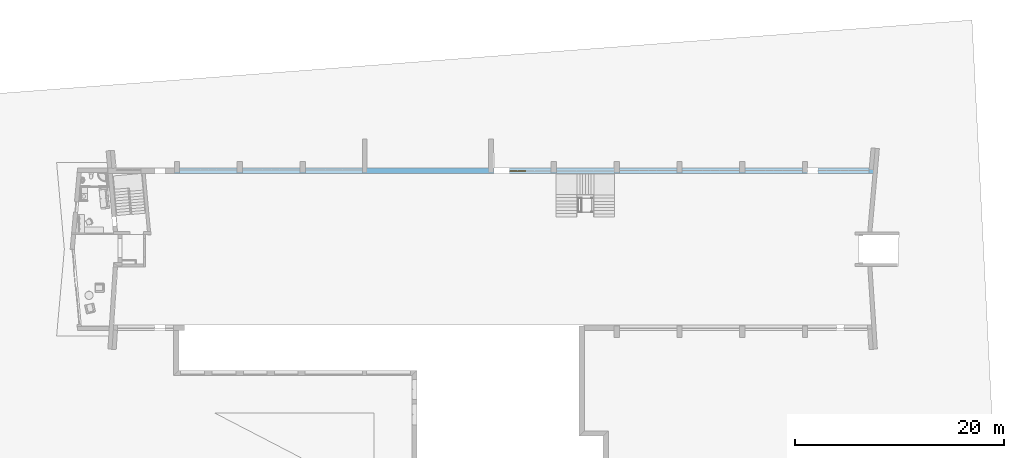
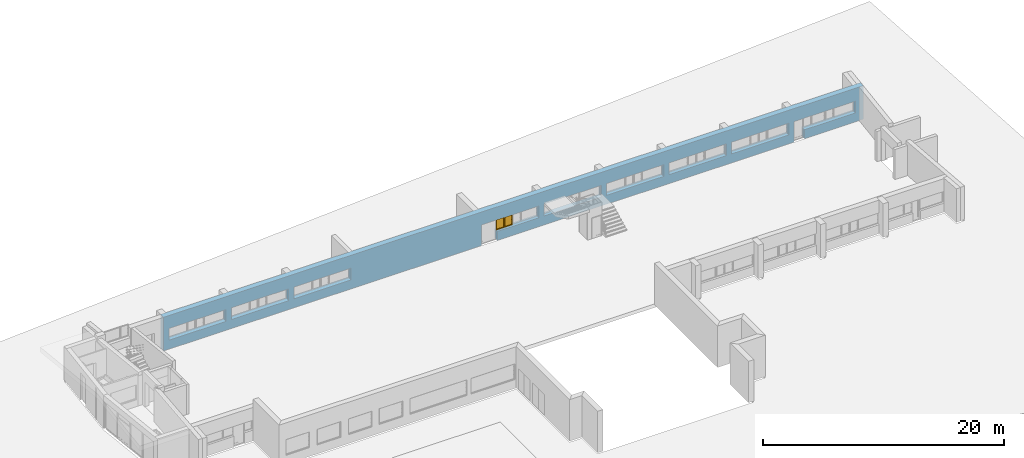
# One storey, part 24 of 36: 1 window, 20 openings, plus 1 element that does not belong to this part.
"""IFC2X3 building model written with IfcOpenShell, lengths in millimetres."""

from ifc_helpers import new_model, entity, si_unit, converted_unit, money_unit, direction, frame, origin_with_axes, place, context, subcontext, project, spatial, polyline, outline, extrude, open_shell, faceted_brep, surface_model, material, material_list, layer, layer_set, layer_usage, type_object, element, fill, save


model = new_model("IFC2X3")

# Units and contexts
model_context = context("Model", 3, precision=1e-05, world=origin_with_axes(), true_north=direction((0.0, 1.0)))
body_context = subcontext(model_context, "Body", "Model", "MODEL_VIEW")
ifc_project = project(units=[si_unit("LENGTHUNIT", "METRE", prefix="MILLI"), si_unit("AREAUNIT", "SQUARE_METRE"), si_unit("VOLUMEUNIT", "CUBIC_METRE"), converted_unit("PLANEANGLEUNIT", "DEGREE", entity("IfcPlaneAngleMeasure", 0.0174532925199), si_unit("PLANEANGLEUNIT", "RADIAN"), dimensions=[0, 0, 0, 0, 0, 0, 0]), si_unit("SOLIDANGLEUNIT", "STERADIAN"), money_unit("USD"), converted_unit("TIMEUNIT", "Year", entity("IfcTimeMeasure", 31556926.0), si_unit("TIMEUNIT", "SECOND"), dimensions=[0, 0, 0, 0, 0, 0, 0]), si_unit("MASSUNIT", "GRAM"), si_unit("THERMODYNAMICTEMPERATUREUNIT", "DEGREE_CELSIUS"), si_unit("LUMINOUSINTENSITYUNIT", "LUMEN")], contexts=[model_context])

# Site, building, storey
site_placement = place(None, origin_with_axes())
site = spatial("IfcSite", under=ifc_project, at=site_placement, Name="Site", CompositionType="ELEMENT")
building_placement = place(site_placement, origin_with_axes())
building = spatial("IfcBuilding", under=site, at=building_placement, Name="Building", CompositionType="ELEMENT")
storey_placement = place(building_placement, frame((0.0, 0.0, -3400.0), z_axis=(0.0, 0.0, 1.0), x_axis=(1.0, 0.0, 0.0)))
storey = spatial("IfcBuildingStorey", under=building, at=storey_placement, Name="1KORRUS", CompositionType="ELEMENT", Elevation=-3400.0)

# Wall, openings, window
ifc_material_1 = material(Name="Olemasolevad seinad tellis, uus viimistlus")
ifc_layer = layer(ifc_material_1, 500.0, ventilated="UNKNOWN")
ifc_layer_set = layer_set([ifc_layer], Name="Olemasolevad seinad tellis, uus viimistlus 500")
ifc_layer_usage = layer_usage(ifc_layer_set, "AXIS2", "POSITIVE", -100.0)
wall_type = type_object("IfcWallType", Name="Olemasolevad seinad tellis, uus viimistlus 500", PredefinedType="NOTDEFINED")
wall_placement = place(storey_placement, frame((-48393.8274049, -5039.6041088, 0.0), z_axis=(0.0, 0.0, 1.0), x_axis=(1.0, 0.0, 0.0)))
wall = element("IfcWallStandardCase", 1, at=wall_placement, inside=storey, type_object=wall_type, material=ifc_layer_usage, Name="VS1", ObjectType="VS1", context=body_context, shape_type="SweptSolid", body=[
    extrude(outline(polyline([(0.0, -100.0), (67149.8194303, -100.0), (67149.8194303, 400.0), (0.0, 400.0), (0.0, -100.0)])), origin_with_axes(), (0.0, 0.0, 1.0), 3400.0),
])
opening_1_placement = place(wall_placement, frame((1878.53070154, 0.0, 900.0), z_axis=(0.0, 0.0, 1.0), x_axis=(1.0, 0.0, 0.0)))
element("IfcOpeningElement", 2, at=opening_1_placement, cuts=wall, Name="Olemasolevad aknad jäävad", context=body_context, shape_type="SweptSolid", body=[
    extrude(outline(polyline([(-1375.0, 1200.0), (-1375.0, 0.0), (1375.0, 0.0), (1375.0, 1200.0), (-1375.0, 1200.0)])), frame((0.0, 250.0, 0.0), z_axis=(0.0, -1.0, 0.0), x_axis=(1.0, 0.0, 0.0)), (0.0, 0.0, 1.0), 850.0),
    extrude(outline(polyline([(-1375.0, 0.0), (-1375.0, -1200.0), (1375.0, -1200.0), (1375.0, 0.0), (-1375.0, 0.0)])), frame((0.0, 250.0, 0.0), z_axis=(0.0, 1.0, 0.0), x_axis=(1.0, 0.0, 0.0)), (0.0, 0.0, 1.0), 650.0),
])
opening_2_placement = place(wall_placement, frame((7878.53070154, 0.0, 900.0), z_axis=(0.0, 0.0, 1.0), x_axis=(1.0, 0.0, 0.0)))
element("IfcOpeningElement", 3, at=opening_2_placement, cuts=wall, Name="Olemasolevad aknad jäävad", context=body_context, shape_type="SweptSolid", body=[
    extrude(outline(polyline([(-1375.0, 1200.0), (-1375.0, 0.0), (1375.0, 0.0), (1375.0, 1200.0), (-1375.0, 1200.0)])), frame((0.0, 250.0, 0.0), z_axis=(0.0, -1.0, 0.0), x_axis=(1.0, 0.0, 0.0)), (0.0, 0.0, 1.0), 850.0),
    extrude(outline(polyline([(-1375.0, 0.0), (-1375.0, -1200.0), (1375.0, -1200.0), (1375.0, 0.0), (-1375.0, 0.0)])), frame((0.0, 250.0, 0.0), z_axis=(0.0, 1.0, 0.0), x_axis=(1.0, 0.0, 0.0)), (0.0, 0.0, 1.0), 650.0),
])
opening_3_placement = place(wall_placement, frame((13878.5307015, 0.0, 900.0), z_axis=(0.0, 0.0, 1.0), x_axis=(1.0, 0.0, 0.0)))
element("IfcOpeningElement", 4, at=opening_3_placement, cuts=wall, Name="Olemasolevad aknad jäävad", context=body_context, shape_type="SweptSolid", body=[
    extrude(outline(polyline([(-1375.0, 1200.0), (-1375.0, 0.0), (1375.0, 0.0), (1375.0, 1200.0), (-1375.0, 1200.0)])), frame((0.0, 250.0, 0.0), z_axis=(0.0, -1.0, 0.0), x_axis=(1.0, 0.0, 0.0)), (0.0, 0.0, 1.0), 850.0),
    extrude(outline(polyline([(-1375.0, 0.0), (-1375.0, -1200.0), (1375.0, -1200.0), (1375.0, 0.0), (-1375.0, 0.0)])), frame((0.0, 250.0, 0.0), z_axis=(0.0, 1.0, 0.0), x_axis=(1.0, 0.0, 0.0)), (0.0, 0.0, 1.0), 650.0),
])
opening_4_placement = place(wall_placement, frame((4628.53070154, 0.0, 900.0), z_axis=(0.0, 0.0, 1.0), x_axis=(1.0, 0.0, 0.0)))
element("IfcOpeningElement", 5, at=opening_4_placement, cuts=wall, Name="Olemasolevad aknad jäävad", context=body_context, shape_type="SweptSolid", body=[
    extrude(outline(polyline([(1375.0, 1200.0), (-1375.0, 1200.0), (-1375.0, 0.0), (1375.0, 0.0), (1375.0, 1200.0)])), frame((0.0, 250.0, 0.0), z_axis=(0.0, -1.0, 0.0), x_axis=(1.0, 0.0, 0.0)), (0.0, 0.0, 1.0), 850.0),
    extrude(outline(polyline([(1375.0, 0.0), (-1375.0, 0.0), (-1375.0, -1200.0), (1375.0, -1200.0), (1375.0, 0.0)])), frame((0.0, 250.0, 0.0), z_axis=(0.0, 1.0, 0.0), x_axis=(1.0, 0.0, 0.0)), (0.0, 0.0, 1.0), 650.0),
])
opening_5_placement = place(wall_placement, frame((10628.5307015, 0.0, 900.0), z_axis=(0.0, 0.0, 1.0), x_axis=(1.0, 0.0, 0.0)))
element("IfcOpeningElement", 6, at=opening_5_placement, cuts=wall, Name="Olemasolevad aknad jäävad", context=body_context, shape_type="SweptSolid", body=[
    extrude(outline(polyline([(1375.0, 1200.0), (-1375.0, 1200.0), (-1375.0, 0.0), (1375.0, 0.0), (1375.0, 1200.0)])), frame((0.0, 250.0, 0.0), z_axis=(0.0, -1.0, 0.0), x_axis=(1.0, 0.0, 0.0)), (0.0, 0.0, 1.0), 850.0),
    extrude(outline(polyline([(1375.0, 0.0), (-1375.0, 0.0), (-1375.0, -1200.0), (1375.0, -1200.0), (1375.0, 0.0)])), frame((0.0, 250.0, 0.0), z_axis=(0.0, 1.0, 0.0), x_axis=(1.0, 0.0, 0.0)), (0.0, 0.0, 1.0), 650.0),
])
opening_6_placement = place(wall_placement, frame((16616.9651775, 0.0, 900.0), z_axis=(0.0, 0.0, 1.0), x_axis=(1.0, 0.0, 0.0)))
element("IfcOpeningElement", 7, at=opening_6_placement, cuts=wall, Name="Olemasolevad aknad jäävad", context=body_context, shape_type="SweptSolid", body=[
    extrude(outline(polyline([(1375.0, 1200.0), (-1375.0, 1200.0), (-1375.0, 0.0), (1375.0, 0.0), (1375.0, 1200.0)])), frame((0.0, 250.0, 0.0), z_axis=(0.0, -1.0, 0.0), x_axis=(1.0, 0.0, 0.0)), (0.0, 0.0, 1.0), 850.0),
    extrude(outline(polyline([(1375.0, 0.0), (-1375.0, 0.0), (-1375.0, -1200.0), (1375.0, -1200.0), (1375.0, 0.0)])), frame((0.0, 250.0, 0.0), z_axis=(0.0, 1.0, 0.0), x_axis=(1.0, 0.0, 0.0)), (0.0, 0.0, 1.0), 650.0),
])
opening_7_placement = place(wall_placement, frame((34803.5307015, 0.0, 900.0), z_axis=(0.0, 0.0, 1.0), x_axis=(1.0, 0.0, 0.0)))
element("IfcOpeningElement", 8, at=opening_7_placement, cuts=wall, Name="Olemasolevad aknad jäävad", context=body_context, shape_type="SweptSolid", body=[
    extrude(outline(polyline([(1200.0, 0.0), (-1200.0, 0.0), (-1200.0, -1200.0), (1200.0, -1200.0), (1200.0, 0.0)])), frame((0.0, 100.0, 0.0), z_axis=(0.0, 1.0, 0.0), x_axis=(1.0, 0.0, 0.0)), (0.0, 0.0, 1.0), 800.0),
    extrude(outline(polyline([(1200.0, 1200.0), (-1200.0, 1200.0), (-1200.0, 0.0), (1200.0, 0.0), (1200.0, 1200.0)])), frame((0.0, 100.0, 0.0), z_axis=(0.0, -1.0, 0.0), x_axis=(1.0, 0.0, 0.0)), (0.0, 0.0, 1.0), 700.0),
])
opening_8_placement = place(wall_placement, frame((40625.1633636, 0.0, 900.0), z_axis=(0.0, 0.0, 1.0), x_axis=(1.0, 0.0, 0.0)))
element("IfcOpeningElement", 9, at=opening_8_placement, cuts=wall, Name="Olemasolevad aknad jäävad", context=body_context, shape_type="SweptSolid", body=[
    extrude(outline(polyline([(1400.0, 0.0), (-1400.0, 0.0), (-1400.0, -1200.0), (1400.0, -1200.0), (1400.0, 0.0)])), frame((0.0, 100.0, 0.0), z_axis=(0.0, 1.0, 0.0), x_axis=(1.0, 0.0, 0.0)), (0.0, 0.0, 1.0), 800.0),
    extrude(outline(polyline([(1400.0, 1200.0), (-1400.0, 1200.0), (-1400.0, 0.0), (1400.0, 0.0), (1400.0, 1200.0)])), frame((0.0, 100.0, 0.0), z_axis=(0.0, -1.0, 0.0), x_axis=(1.0, 0.0, 0.0)), (0.0, 0.0, 1.0), 700.0),
])
opening_9_placement = place(wall_placement, frame((37871.3218818, 0.0, 900.0), z_axis=(0.0, 0.0, 1.0), x_axis=(1.0, 0.0, 0.0)))
element("IfcOpeningElement", 10, at=opening_9_placement, cuts=wall, Name="Olemasolevad aknad jäävad", context=body_context, shape_type="SweptSolid", body=[
    extrude(outline(polyline([(-1367.791, 0.0), (-1367.791, -1200.0), (1367.791, -1200.0), (1367.791, 0.0), (-1367.791, 0.0)])), frame((0.0, 150.0, 0.0), z_axis=(0.0, 1.0, 0.0), x_axis=(1.0, 0.0, 0.0)), (0.0, 0.0, 1.0), 750.0),
    extrude(outline(polyline([(-1367.791, 1200.0), (-1367.791, 0.0), (1367.791, 0.0), (1367.791, 1200.0), (-1367.791, 1200.0)])), frame((0.0, 150.0, 0.0), z_axis=(0.0, -1.0, 0.0), x_axis=(1.0, 0.0, 0.0)), (0.0, 0.0, 1.0), 750.0),
])
opening_10_placement = place(wall_placement, frame((46628.5307015, 0.0, 900.0), z_axis=(0.0, 0.0, 1.0), x_axis=(1.0, 0.0, 0.0)))
element("IfcOpeningElement", 11, at=opening_10_placement, cuts=wall, Name="Olemasolevad aknad jäävad", context=body_context, shape_type="SweptSolid", body=[
    extrude(outline(polyline([(1375.0, 1200.0), (-1375.0, 1200.0), (-1375.0, 0.0), (1375.0, 0.0), (1375.0, 1200.0)])), frame((0.0, 150.0, 0.0), z_axis=(0.0, -1.0, 0.0), x_axis=(1.0, 0.0, 0.0)), (0.0, 0.0, 1.0), 750.0),
    extrude(outline(polyline([(1375.0, 0.0), (-1375.0, 0.0), (-1375.0, -1200.0), (1375.0, -1200.0), (1375.0, 0.0)])), frame((0.0, 150.0, 0.0), z_axis=(0.0, 1.0, 0.0), x_axis=(1.0, 0.0, 0.0)), (0.0, 0.0, 1.0), 750.0),
])
opening_11_placement = place(wall_placement, frame((43878.5307015, 0.0, 900.0), z_axis=(0.0, 0.0, 1.0), x_axis=(1.0, 0.0, 0.0)))
element("IfcOpeningElement", 12, at=opening_11_placement, cuts=wall, Name="Olemasolevad aknad jäävad", context=body_context, shape_type="SweptSolid", body=[
    extrude(outline(polyline([(-1375.0, 1200.0), (-1375.0, 0.0), (1375.0, 0.0), (1375.0, 1200.0), (-1375.0, 1200.0)])), frame((0.0, 200.0, 0.0), z_axis=(0.0, -1.0, 0.0), x_axis=(1.0, 0.0, 0.0)), (0.0, 0.0, 1.0), 800.0),
    extrude(outline(polyline([(-1375.0, 0.0), (-1375.0, -1200.0), (1375.0, -1200.0), (1375.0, 0.0), (-1375.0, 0.0)])), frame((0.0, 200.0, 0.0), z_axis=(0.0, 1.0, 0.0), x_axis=(1.0, 0.0, 0.0)), (0.0, 0.0, 1.0), 700.0),
])
opening_12_placement = place(wall_placement, frame((52635.3834465, 0.0, 900.0), z_axis=(0.0, 0.0, 1.0), x_axis=(1.0, 0.0, 0.0)))
element("IfcOpeningElement", 13, at=opening_12_placement, cuts=wall, Name="Olemasolevad aknad jäävad", context=body_context, shape_type="SweptSolid", body=[
    extrude(outline(polyline([(1376.809, 1200.0), (-1376.809, 1200.0), (-1376.809, 0.0), (1376.809, 0.0), (1376.809, 1200.0)])), frame((0.0, 150.0, 0.0), z_axis=(0.0, -1.0, 0.0), x_axis=(1.0, 0.0, 0.0)), (0.0, 0.0, 1.0), 750.0),
    extrude(outline(polyline([(1376.809, 0.0), (-1376.809, 0.0), (-1376.809, -1200.0), (1376.809, -1200.0), (1376.809, 0.0)])), frame((0.0, 150.0, 0.0), z_axis=(0.0, 1.0, 0.0), x_axis=(1.0, 0.0, 0.0)), (0.0, 0.0, 1.0), 750.0),
])
opening_13_placement = place(wall_placement, frame((49883.9987013, 0.0, 900.0), z_axis=(0.0, 0.0, 1.0), x_axis=(1.0, 0.0, 0.0)))
element("IfcOpeningElement", 14, at=opening_13_placement, cuts=wall, Name="Olemasolevad aknad jäävad", context=body_context, shape_type="SweptSolid", body=[
    extrude(outline(polyline([(-1375.0, 1200.0), (-1375.0, 0.0), (1375.0, 0.0), (1375.0, 1200.0), (-1375.0, 1200.0)])), frame((0.0, 200.0, 0.0), z_axis=(0.0, -1.0, 0.0), x_axis=(1.0, 0.0, 0.0)), (0.0, 0.0, 1.0), 800.0),
    extrude(outline(polyline([(-1375.0, 0.0), (-1375.0, -1200.0), (1375.0, -1200.0), (1375.0, 0.0), (-1375.0, 0.0)])), frame((0.0, 200.0, 0.0), z_axis=(0.0, 1.0, 0.0), x_axis=(1.0, 0.0, 0.0)), (0.0, 0.0, 1.0), 700.0),
])
opening_14_placement = place(wall_placement, frame((58631.8843372, 0.0, 900.0), z_axis=(0.0, 0.0, 1.0), x_axis=(1.0, 0.0, 0.0)))
element("IfcOpeningElement", 15, at=opening_14_placement, cuts=wall, Name="Olemasolevad aknad jäävad", context=body_context, shape_type="SweptSolid", body=[
    extrude(outline(polyline([(1371.646, 1200.0), (-1371.646, 1200.0), (-1371.646, 0.0), (1371.646, 0.0), (1371.646, 1200.0)])), frame((0.0, 150.0, 0.0), z_axis=(0.0, -1.0, 0.0), x_axis=(1.0, 0.0, 0.0)), (0.0, 0.0, 1.0), 750.0),
    extrude(outline(polyline([(1371.646, 0.0), (-1371.646, 0.0), (-1371.646, -1200.0), (1371.646, -1200.0), (1371.646, 0.0)])), frame((0.0, 150.0, 0.0), z_axis=(0.0, 1.0, 0.0), x_axis=(1.0, 0.0, 0.0)), (0.0, 0.0, 1.0), 750.0),
])
opening_15_placement = place(wall_placement, frame((55886.6217615, 0.0, 900.0), z_axis=(0.0, 0.0, 1.0), x_axis=(1.0, 0.0, 0.0)))
element("IfcOpeningElement", 16, at=opening_15_placement, cuts=wall, Name="Olemasolevad aknad jäävad", context=body_context, shape_type="SweptSolid", body=[
    extrude(outline(polyline([(-1375.0, 1200.0), (-1375.0, 0.0), (1375.0, 0.0), (1375.0, 1200.0), (-1375.0, 1200.0)])), frame((0.0, 200.0, 0.0), z_axis=(0.0, -1.0, 0.0), x_axis=(1.0, 0.0, 0.0)), (0.0, 0.0, 1.0), 800.0),
    extrude(outline(polyline([(-1375.0, 0.0), (-1375.0, -1200.0), (1375.0, -1200.0), (1375.0, 0.0), (-1375.0, 0.0)])), frame((0.0, 200.0, 0.0), z_axis=(0.0, 1.0, 0.0), x_axis=(1.0, 0.0, 0.0)), (0.0, 0.0, 1.0), 700.0),
])
opening_16_placement = place(wall_placement, frame((64995.2517085, 0.0, 900.0), z_axis=(0.0, 0.0, 1.0), x_axis=(1.0, 0.0, 0.0)))
element("IfcOpeningElement", 17, at=opening_16_placement, cuts=wall, Name="Olemasolevad aknad jäävad", context=body_context, shape_type="SweptSolid", body=[
    extrude(outline(polyline([(1375.0, 1200.0), (-1375.0, 1200.0), (-1375.0, 0.0), (1375.0, 0.0), (1375.0, 1200.0)])), frame((0.0, 150.0, 0.0), z_axis=(0.0, -1.0, 0.0), x_axis=(1.0, 0.0, 0.0)), (0.0, 0.0, 1.0), 750.0),
    extrude(outline(polyline([(1375.0, 0.0), (-1375.0, 0.0), (-1375.0, -1200.0), (1375.0, -1200.0), (1375.0, 0.0)])), frame((0.0, 150.0, 0.0), z_axis=(0.0, 1.0, 0.0), x_axis=(1.0, 0.0, 0.0)), (0.0, 0.0, 1.0), 750.0),
])
opening_17_placement = place(wall_placement, frame((32810.8244307, 0.0, 900.0), z_axis=(0.0, 0.0, 1.0), x_axis=(1.0, 0.0, 0.0)))
opening_17 = element("IfcOpeningElement", 18, at=opening_17_placement, cuts=wall, Name="Olemasolevad aknad jäävad", context=body_context, shape_type="SweptSolid", body=[
    extrude(outline(polyline([(792.706, 0.0), (-792.706, 0.0), (-792.706, -1200.0), (792.706, -1200.0), (792.706, 0.0)])), frame((0.0, 100.0, 0.0), z_axis=(0.0, 1.0, 0.0), x_axis=(1.0, 0.0, 0.0)), (0.0, 0.0, 1.0), 800.0),
    extrude(outline(polyline([(792.706, 1200.0), (-792.706, 1200.0), (-792.706, 0.0), (792.706, 0.0), (792.706, 1200.0)])), frame((0.0, 100.0, 0.0), z_axis=(0.0, -1.0, 0.0), x_axis=(1.0, 0.0, 0.0)), (0.0, 0.0, 1.0), 700.0),
])
opening_18_placement = place(wall_placement, frame((62561.891205, 0.0, 900.0), z_axis=(0.0, 0.0, 1.0), x_axis=(1.0, 0.0, 0.0)))
element("IfcOpeningElement", 19, at=opening_18_placement, cuts=wall, Name="Olemasolevad aknad jäävad", context=body_context, shape_type="SweptSolid", body=[
    extrude(outline(polyline([(1058.361, 1200.0), (-1058.361, 1200.0), (-1058.361, 0.0), (1058.361, 0.0), (1058.361, 1200.0)])), frame((0.0, 150.0, 0.0), z_axis=(0.0, -1.0, 0.0), x_axis=(1.0, 0.0, 0.0)), (0.0, 0.0, 1.0), 750.0),
    extrude(outline(polyline([(1058.361, 0.0), (-1058.361, 0.0), (-1058.361, -1200.0), (1058.361, -1200.0), (1058.361, 0.0)])), frame((0.0, 150.0, 0.0), z_axis=(0.0, 1.0, 0.0), x_axis=(1.0, 0.0, 0.0)), (0.0, 0.0, 1.0), 750.0),
])
opening_19_placement = place(wall_placement, frame((61003.5307015, 0.0, -4.66441168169), z_axis=(0.0, 0.0, 1.0), x_axis=(1.0, 0.0, 0.0)))
element("IfcOpeningElement", 20, at=opening_19_placement, cuts=wall, Name="ava", context=body_context, shape_type="SweptSolid", body=[
    extrude(outline(polyline([(-500.0, 2100.0), (-500.0, 0.0), (500.0, 0.0), (500.0, 2100.0), (-500.0, 2100.0)])), frame((0.0, 200.0, 0.0), z_axis=(0.0, 1.0, 0.0), x_axis=(-1.0, 0.0, 0.0)), (0.0, 0.0, -1.0), 800.0),
    extrude(outline(polyline([(-500.0, 0.0), (-500.0, -2100.0), (500.0, -2100.0), (500.0, 0.0), (-500.0, 0.0)])), frame((0.0, 200.0, 0.0), z_axis=(0.0, -1.0, 0.0), x_axis=(-1.0, 0.0, 0.0)), (0.0, 0.0, -1.0), 700.0),
])
opening_20_placement = place(wall_placement, frame((31268.1181599, 0.0, 0.0), z_axis=(0.0, 0.0, 1.0), x_axis=(1.0, 0.0, 0.0)))
element("IfcOpeningElement", 21, at=opening_20_placement, cuts=wall, Name="ava", context=body_context, shape_type="SweptSolid", body=[
    extrude(outline(polyline([(-750.0, 2100.0), (-750.0, 0.0), (750.0, 0.0), (750.0, 2100.0), (-750.0, 2100.0)])), frame((0.0, 200.0, 0.0), z_axis=(0.0, -1.0, 0.0), x_axis=(1.0, 0.0, 0.0)), (0.0, 0.0, 1.0), 800.0),
    extrude(outline(polyline([(-750.0, 0.0), (-750.0, -2100.0), (750.0, -2100.0), (750.0, 0.0), (-750.0, 0.0)])), frame((0.0, 200.0, 0.0), z_axis=(0.0, 1.0, 0.0), x_axis=(1.0, 0.0, 0.0)), (0.0, 0.0, 1.0), 700.0),
])
ifc_material_2 = material(Name="Background")
ifc_material_list = material_list([ifc_material_2])
window_style = type_object("IfcWindowStyle", Name="Double Window 19", ConstructionType="NOTDEFINED", OperationType="DOUBLE_PANEL_VERTICAL", ParameterTakesPrecedence=False, Sizeable=False)
window_placement = place(opening_17_placement, frame((-792.70627081, 0.0, 0.0), z_axis=(0.0, 0.0, 1.0), x_axis=(1.0, 0.0, 0.0)))
window = element("IfcWindow", 22, at=window_placement, inside=storey, type_object=window_style, material=ifc_material_list, Name="Olemasolevad aknad jäävad", ObjectType="Olemasolevad aknad jäävad", OverallHeight=1200.0, OverallWidth=1585.41, context=body_context, shape_type="SurfaceModel", body=[
    faceted_brep([(1560.413, 150.0, 1150.0), (1560.413, 125.0, 1150.0), (1535.413, 125.0, 1150.0), (1535.413, 100.0, 1150.0), (1585.413, 100.0, 1150.0), (1585.413, 150.0, 1150.0), (1560.413, 150.0, 50.0), (1560.413, 125.0, 50.0), (1535.413, 125.0, 50.0), (1535.413, 100.0, 50.0), (1585.413, 100.0, 50.0), (1585.413, 150.0, 50.0)], [[[0, 1, 2, 3, 4, 5]], [[1, 0, 6, 7]], [[8, 2, 1, 7]], [[2, 8, 9, 3]], [[4, 3, 9, 10]], [[5, 4, 10, 11]], [[6, 0, 5, 11]], [[7, 6, 11, 10, 9, 8]]]),
    faceted_brep([(50.0, 125.0, 1150.0), (25.0, 125.0, 1150.0), (25.0, 150.0, 1150.0), (0.0, 150.0, 1150.0), (0.0, 100.0, 1150.0), (50.0, 100.0, 1150.0), (50.0, 125.0, 50.0), (25.0, 125.0, 50.0), (25.0, 150.0, 50.0), (0.0, 150.0, 50.0), (0.0, 100.0, 50.0), (50.0, 100.0, 50.0)], [[[0, 1, 2, 3, 4, 5]], [[1, 0, 6, 7]], [[8, 2, 1, 7]], [[2, 8, 9, 3]], [[9, 10, 4, 3]], [[10, 11, 5, 4]], [[6, 0, 5, 11]], [[7, 6, 11, 10, 9, 8]]]),
    faceted_brep([(850.0, 125.0, 1150.0), (825.0, 125.0, 1150.0), (825.0, 150.0, 1150.0), (775.0, 150.0, 1150.0), (775.0, 125.0, 1150.0), (750.0, 125.0, 1150.0), (750.0, 100.0, 1150.0), (850.0, 100.0, 1150.0), (850.0, 125.0, 50.0), (825.0, 125.0, 50.0), (825.0, 150.0, 50.0), (775.0, 150.0, 50.0), (775.0, 125.0, 50.0), (750.0, 125.0, 50.0), (750.0, 100.0, 50.0), (850.0, 100.0, 50.0)], [[[0, 1, 2, 3, 4, 5, 6, 7]], [[1, 0, 8, 9]], [[10, 2, 1, 9]], [[2, 10, 11, 3]], [[4, 3, 11, 12]], [[13, 5, 4, 12]], [[5, 13, 14, 6]], [[14, 15, 7, 6]], [[8, 0, 7, 15]], [[9, 8, 15, 14, 13, 12, 11, 10]]]),
    faceted_brep([(850.0, 125.0, 50.0), (825.0, 125.0, 50.0), (825.0, 150.0, 50.0), (775.0, 150.0, 50.0), (775.0, 125.0, 50.0), (750.0, 125.0, 50.0), (750.0, 100.0, 50.0), (850.0, 100.0, 50.0), (1535.413, 125.0, 50.0), (1560.413, 125.0, 50.0), (1560.413, 125.0, 25.0), (825.0, 125.0, 25.0), (825.0, 150.0, 25.0), (1560.413, 150.0, 25.0), (1560.413, 150.0, 50.0), (1585.413, 150.0, 50.0), (1585.413, 150.0, 0.0), (0.0, 150.0, 0.0), (0.0, 150.0, 50.0), (25.0, 150.0, 50.0), (25.0, 150.0, 25.0), (775.0, 150.0, 25.0), (775.0, 125.0, 25.0), (25.0, 125.0, 50.0), (50.0, 125.0, 50.0), (25.0, 125.0, 25.0), (50.0, 100.0, 50.0), (1585.413, 100.0, 50.0), (1535.413, 100.0, 50.0), (0.0, 100.0, 50.0), (0.0, 100.0, 0.0), (1585.413, 100.0, 0.0)], [[[0, 1, 2, 3, 4, 5, 6, 7]], [[1, 0, 8, 9, 10, 11]], [[12, 2, 1, 11]], [[13, 14, 15, 16, 17, 18, 19, 20, 21, 3, 2, 12]], [[4, 3, 21, 22]], [[23, 24, 5, 4, 22, 25]], [[5, 24, 26, 6]], [[27, 28, 7, 6, 26, 29, 30, 31]], [[8, 0, 7, 28]], [[9, 8, 28, 27, 15, 14]], [[9, 14, 13, 10]], [[13, 12, 11, 10]], [[15, 27, 31, 16]], [[16, 31, 30, 17]], [[17, 30, 29, 18]], [[24, 23, 19, 18, 29, 26]], [[20, 19, 23, 25]], [[21, 20, 25, 22]]]),
    faceted_brep([(1560.413, 150.0, 1150.0), (1560.413, 150.0, 1175.0), (825.0, 150.0, 1175.0), (825.0, 150.0, 1150.0), (775.0, 150.0, 1150.0), (775.0, 150.0, 1175.0), (25.0, 150.0, 1175.0), (25.0, 150.0, 1150.0), (0.0, 150.0, 1150.0), (0.0, 150.0, 1200.0), (1585.413, 150.0, 1200.0), (1585.413, 150.0, 1150.0), (1560.413, 125.0, 1150.0), (1560.413, 125.0, 1175.0), (825.0, 125.0, 1175.0), (825.0, 125.0, 1150.0), (850.0, 125.0, 1150.0), (850.0, 100.0, 1150.0), (750.0, 100.0, 1150.0), (750.0, 125.0, 1150.0), (775.0, 125.0, 1150.0), (775.0, 125.0, 1175.0), (25.0, 125.0, 1175.0), (25.0, 125.0, 1150.0), (50.0, 125.0, 1150.0), (50.0, 100.0, 1150.0), (0.0, 100.0, 1150.0), (0.0, 100.0, 1200.0), (1585.413, 100.0, 1200.0), (1585.413, 100.0, 1150.0), (1535.413, 100.0, 1150.0), (1535.413, 125.0, 1150.0)], [[[0, 1, 2, 3, 4, 5, 6, 7, 8, 9, 10, 11]], [[1, 0, 12, 13]], [[2, 1, 13, 14]], [[3, 2, 14, 15]], [[15, 16, 17, 18, 19, 20, 4, 3]], [[5, 4, 20, 21]], [[6, 5, 21, 22]], [[7, 6, 22, 23]], [[23, 24, 25, 26, 8, 7]], [[8, 26, 27, 9]], [[9, 27, 28, 10]], [[10, 28, 29, 11]], [[12, 0, 11, 29, 30, 31]], [[16, 15, 14, 13, 12, 31]], [[16, 31, 30, 17]], [[18, 17, 30, 29, 28, 27, 26, 25]], [[24, 19, 18, 25]], [[24, 23, 22, 21, 20, 19]]]),
    faceted_brep([(1510.413, 125.0, 1125.0), (1560.413, 125.0, 1125.0), (1560.413, 175.0, 1125.0), (1510.413, 175.0, 1125.0), (1510.413, 125.0, 75.0), (1560.413, 125.0, 75.0), (1560.413, 175.0, 75.0), (1510.413, 175.0, 75.0)], [[[0, 1, 2, 3]], [[0, 4, 5, 1]], [[1, 5, 6, 2]], [[3, 2, 6, 7]], [[4, 0, 3, 7]], [[5, 4, 7, 6]]]),
    faceted_brep([(875.0, 125.0, 75.0), (825.0, 125.0, 75.0), (825.0, 175.0, 75.0), (875.0, 175.0, 75.0), (875.0, 125.0, 1125.0), (825.0, 125.0, 1125.0), (825.0, 175.0, 1125.0), (875.0, 175.0, 1125.0)], [[[0, 1, 2, 3]], [[0, 4, 5, 1]], [[1, 5, 6, 2]], [[3, 2, 6, 7]], [[4, 0, 3, 7]], [[5, 4, 7, 6]]]),
    faceted_brep([(825.0, 125.0, 25.0), (825.0, 125.0, 75.0), (825.0, 175.0, 75.0), (825.0, 175.0, 25.0), (1560.413, 125.0, 25.0), (1560.413, 125.0, 75.0), (1510.413, 125.0, 75.0), (875.0, 125.0, 75.0), (875.0, 175.0, 75.0), (1510.413, 175.0, 75.0), (1560.413, 175.0, 75.0), (1560.413, 175.0, 25.0)], [[[0, 1, 2, 3]], [[0, 4, 5, 6, 7, 1]], [[1, 7, 8, 2]], [[3, 2, 8, 9, 10, 11]], [[4, 0, 3, 11]], [[5, 4, 11, 10]], [[6, 5, 10, 9]], [[7, 6, 9, 8]]]),
    faceted_brep([(1560.413, 125.0, 1175.0), (1560.413, 125.0, 1125.0), (1560.413, 175.0, 1125.0), (1560.413, 175.0, 1175.0), (825.0, 125.0, 1175.0), (825.0, 125.0, 1125.0), (875.0, 125.0, 1125.0), (1510.413, 125.0, 1125.0), (1510.413, 175.0, 1125.0), (875.0, 175.0, 1125.0), (825.0, 175.0, 1125.0), (825.0, 175.0, 1175.0)], [[[0, 1, 2, 3]], [[0, 4, 5, 6, 7, 1]], [[1, 7, 8, 2]], [[3, 2, 8, 9, 10, 11]], [[4, 0, 3, 11]], [[5, 4, 11, 10]], [[6, 5, 10, 9]], [[7, 6, 9, 8]]]),
    surface_model("IfcShellBasedSurfaceModel", [(1510.413, 140.0, 75.0), (1510.413, 140.0, 1125.0), (875.0, 140.0, 1125.0), (875.0, 140.0, 75.0)], [open_shell([[[0, 1, 2, 3]]])]),
    surface_model("IfcShellBasedSurfaceModel", [(1510.413, 160.0, 75.0), (875.0, 160.0, 75.0), (875.0, 160.0, 1125.0), (1510.413, 160.0, 1125.0)], [open_shell([[[0, 1, 2, 3]]])]),
    faceted_brep([(725.0, 125.0, 1125.0), (775.0, 125.0, 1125.0), (775.0, 175.0, 1125.0), (725.0, 175.0, 1125.0), (725.0, 125.0, 75.0), (775.0, 125.0, 75.0), (775.0, 175.0, 75.0), (725.0, 175.0, 75.0)], [[[0, 1, 2, 3]], [[0, 4, 5, 1]], [[1, 5, 6, 2]], [[3, 2, 6, 7]], [[4, 0, 3, 7]], [[5, 4, 7, 6]]]),
    faceted_brep([(75.0, 125.0, 75.0), (25.0, 125.0, 75.0), (25.0, 175.0, 75.0), (75.0, 175.0, 75.0), (75.0, 125.0, 1125.0), (25.0, 125.0, 1125.0), (25.0, 175.0, 1125.0), (75.0, 175.0, 1125.0)], [[[0, 1, 2, 3]], [[0, 4, 5, 1]], [[1, 5, 6, 2]], [[3, 2, 6, 7]], [[4, 0, 3, 7]], [[5, 4, 7, 6]]]),
    faceted_brep([(25.0, 125.0, 25.0), (25.0, 125.0, 75.0), (25.0, 175.0, 75.0), (25.0, 175.0, 25.0), (775.0, 125.0, 25.0), (775.0, 125.0, 75.0), (725.0, 125.0, 75.0), (75.0, 125.0, 75.0), (75.0, 175.0, 75.0), (725.0, 175.0, 75.0), (775.0, 175.0, 75.0), (775.0, 175.0, 25.0)], [[[0, 1, 2, 3]], [[0, 4, 5, 6, 7, 1]], [[1, 7, 8, 2]], [[3, 2, 8, 9, 10, 11]], [[4, 0, 3, 11]], [[5, 4, 11, 10]], [[6, 5, 10, 9]], [[7, 6, 9, 8]]]),
    faceted_brep([(775.0, 125.0, 1175.0), (775.0, 125.0, 1125.0), (775.0, 175.0, 1125.0), (775.0, 175.0, 1175.0), (25.0, 125.0, 1175.0), (25.0, 125.0, 1125.0), (75.0, 125.0, 1125.0), (725.0, 125.0, 1125.0), (725.0, 175.0, 1125.0), (75.0, 175.0, 1125.0), (25.0, 175.0, 1125.0), (25.0, 175.0, 1175.0)], [[[0, 1, 2, 3]], [[0, 4, 5, 6, 7, 1]], [[1, 7, 8, 2]], [[3, 2, 8, 9, 10, 11]], [[4, 0, 3, 11]], [[5, 4, 11, 10]], [[6, 5, 10, 9]], [[7, 6, 9, 8]]]),
    surface_model("IfcShellBasedSurfaceModel", [(725.0, 140.0, 75.0), (725.0, 140.0, 1125.0), (75.0, 140.0, 1125.0), (75.0, 140.0, 75.0)], [open_shell([[[0, 1, 2, 3]]])]),
    surface_model("IfcShellBasedSurfaceModel", [(725.0, 160.0, 75.0), (75.0, 160.0, 75.0), (75.0, 160.0, 1125.0), (725.0, 160.0, 1125.0)], [open_shell([[[0, 1, 2, 3]]])]),
])
fill(opening_17, window)

save(model, "model.ifc")
